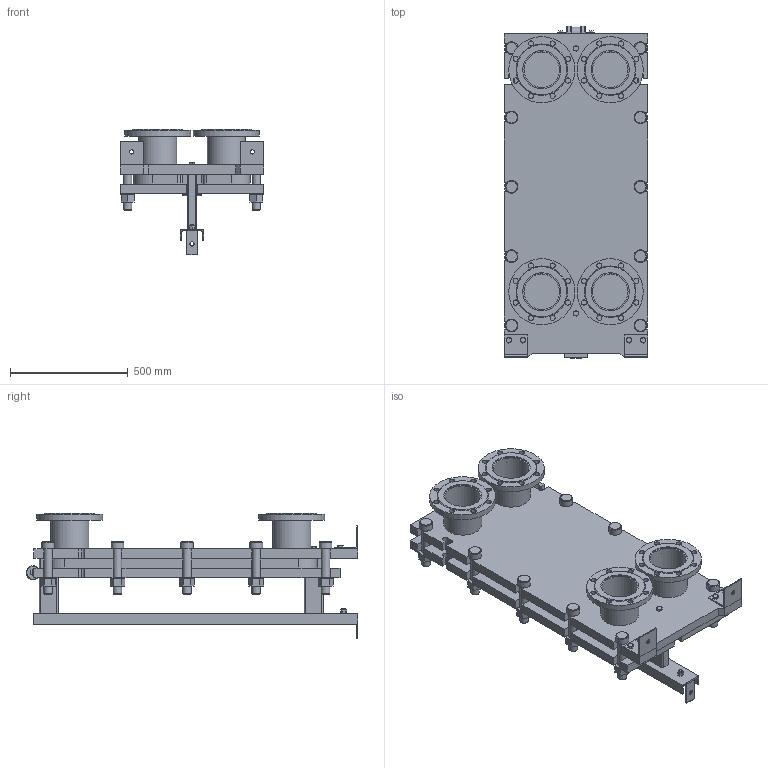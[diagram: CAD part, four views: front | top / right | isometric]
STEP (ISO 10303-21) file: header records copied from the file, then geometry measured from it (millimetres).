
FILE_DESCRIPTION(/* description */ (''),/* implementation_level */ '2;1');
FILE_NAME(/* name */ 'C:\Users\zhuro\Desktop\ENCO\TO\ЭН-041\ЭН-0,5-041-12-1.stp',/* time_stamp */ '2022-06-06T10:48:51+03:00',/* author */ ('zhuro'),/* organization */ (''),/* preprocessor_version */ 'ST-DEVELOPER v18.1',/* originating_system */ 'Autodesk Inventor 2022',/* authorisation */ '');
FILE_SCHEMA (('AUTOMOTIVE_DESIGN { 1 0 10303 214 3 1 1 }'));
Length unit declared in the file: millimetre
Products named in the file (1): ЭН-0,5-041-12-1
Bounding box: 610 x 1406.5 x 530 mm (x, y, z)
Volume: 97574070.1 mm3; surface area: 7084183.3 mm2
Topology: 52 solids, 52 shells, 711 faces, 1696 edges, 1094 vertices
Faces by surface type: plane 487, cylinder 177, cone 41, torus 6
Full cylindrical faces by diameter (mm): 8 x4, 10 x2, 16 x8, 18 x3, 22 x32, 36 x24, 50 x1, 54 x10, 60 x12, 151 x4, 161 x8, 280 x4
Entity records: 22667 total; most frequent: CARTESIAN_POINT 5230, DIRECTION 3644, ORIENTED_EDGE 3392, EDGE_CURVE 1696, AXIS2_PLACEMENT_3D 1272, LINE 1100, VECTOR 1100, VERTEX_POINT 1094
